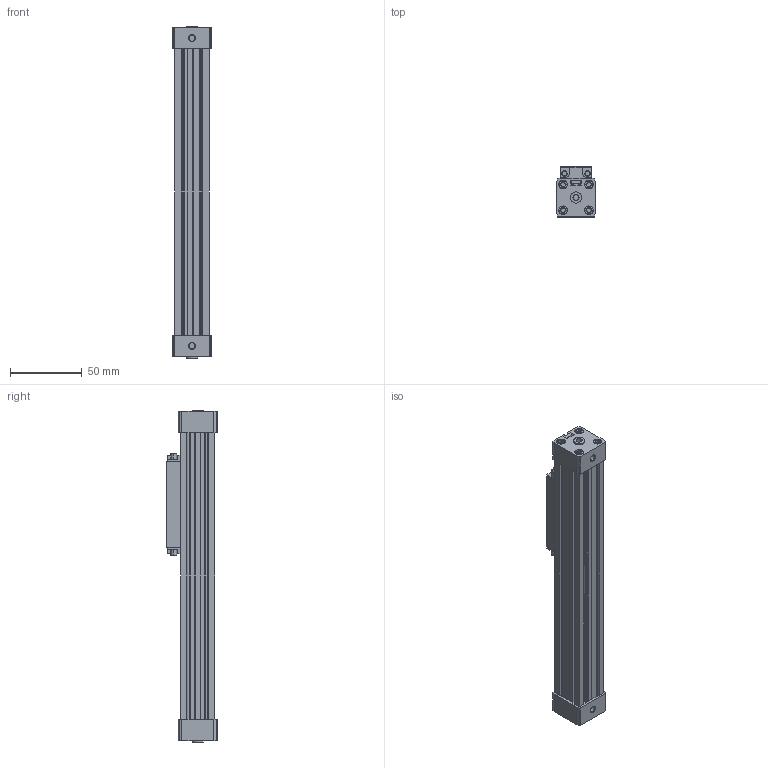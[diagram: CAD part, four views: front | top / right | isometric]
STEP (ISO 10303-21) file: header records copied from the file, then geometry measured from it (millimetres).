
FILE_DESCRIPTION (( 'STEP AP203' ), '1' );
FILE_NAME ('RLF16.0100.STEP', '2005-12-19T16:27:19', ( 'Vesta Automation srl' ), ( 'Vesta Automation srl' ), 'SwSTEP 2.0', 'SolidWorks 2005187', '' );
FILE_SCHEMA (( 'CONFIG_CONTROL_DESIGN' ));
Length unit declared in the file: millimetre
Products named in the file (6): BARREL-RLFØ16_STROKE 0100; CARRIAGE-RLFØ16; RLF16.0100; REAR END CAP-RLFØ16; FRONT END CAP-RLFØ16; SEALING BAND-RLFØ16_STROKE 0100
Assembly tree (5 placements, depth 2):
  RLF16.0100
    BARREL-RLFØ16_STROKE 0100
    FRONT END CAP-RLFØ16
    REAR END CAP-RLFØ16
    CARRIAGE-RLFØ16
    SEALING BAND-RLFØ16_STROKE 0100
Bounding box: 27 x 35 x 232 mm (x, y, z)
Volume: 117760.8 mm3; surface area: 59492.9 mm2
Topology: 5 solids, 7 shells, 988 faces, 2302 edges, 1398 vertices
Faces by surface type: plane 461, cone 384, cylinder 143
Entity records: 28306 total; most frequent: DIRECTION 4978, CARTESIAN_POINT 4692, ORIENTED_EDGE 4596, EDGE_CURVE 2298, AXIS2_PLACEMENT_3D 1684, VECTOR 1610, LINE 1610, VERTEX_POINT 1398
